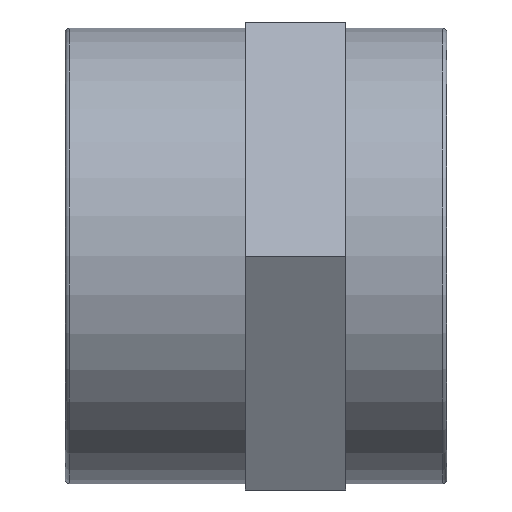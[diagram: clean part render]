
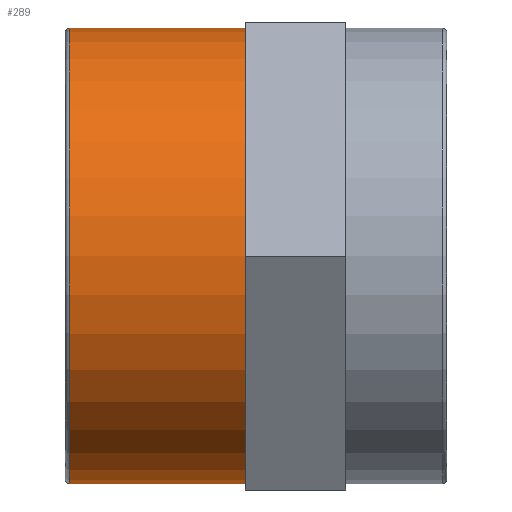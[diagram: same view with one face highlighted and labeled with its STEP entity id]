
A CAD part, top view. The second image highlights one B-rep face of the part: STEP entity #289.
In plain terms, the highlighted cylindrical face has radius 63.291 mm (diameter 126.583 mm), a full revolution.
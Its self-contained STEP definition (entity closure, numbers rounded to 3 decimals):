
#54=CYLINDRICAL_SURFACE('',#323,63.291);
#77=FACE_BOUND('',#123,.T.);
#92=FACE_OUTER_BOUND('',#122,.T.);
#122=EDGE_LOOP('',(#230));
#123=EDGE_LOOP('',(#231));
#150=CIRCLE('',#322,63.291);
#151=CIRCLE('',#324,63.291);
#164=VERTEX_POINT('',#458);
#165=VERTEX_POINT('',#461);
#190=EDGE_CURVE('',#164,#164,#150,.T.);
#191=EDGE_CURVE('',#165,#165,#151,.T.);
#230=ORIENTED_EDGE('',*,*,#191,.T.);
#231=ORIENTED_EDGE('',*,*,#190,.F.);
#289=ADVANCED_FACE('',(#92,#77),#54,.T.);
#322=AXIS2_PLACEMENT_3D('',#459,#378,#379);
#323=AXIS2_PLACEMENT_3D('',#460,#380,#381);
#324=AXIS2_PLACEMENT_3D('',#462,#382,#383);
#378=DIRECTION('center_axis',(-1.,0.,0.));
#379=DIRECTION('ref_axis',(0.,1.,0.));
#380=DIRECTION('center_axis',(-1.,0.,0.));
#381=DIRECTION('ref_axis',(0.,-1.,0.));
#382=DIRECTION('center_axis',(-1.,0.,0.));
#383=DIRECTION('ref_axis',(0.,0.,1.));
#458=CARTESIAN_POINT('',(-51.899,-63.291,0.));
#459=CARTESIAN_POINT('Origin',(-51.899,0.,0.));
#460=CARTESIAN_POINT('Origin',(-28.,0.,0.));
#461=CARTESIAN_POINT('',(-3.,-63.291,0.));
#462=CARTESIAN_POINT('Origin',(-3.,0.,0.));
